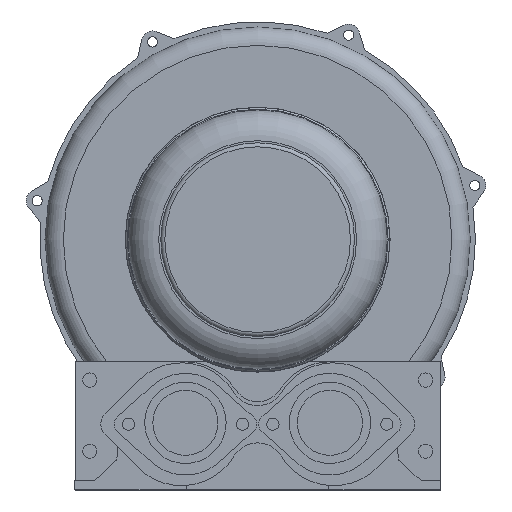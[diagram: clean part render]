
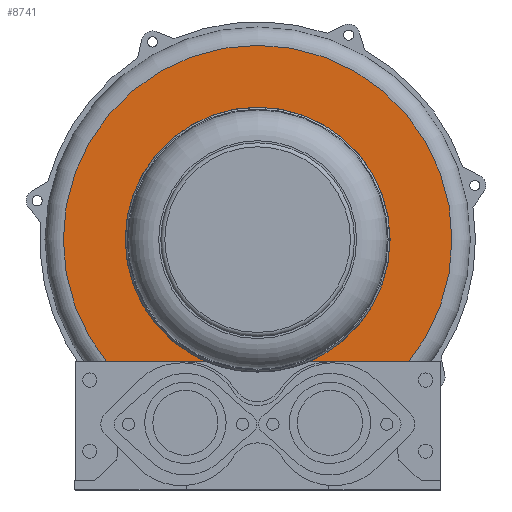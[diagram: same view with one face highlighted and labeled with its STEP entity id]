
A CAD part, front view. The second image highlights one B-rep face of the part: STEP entity #8741.
In plain terms, the highlighted conical face has half-angle 89.994 degrees and reference radius 95.484 mm.
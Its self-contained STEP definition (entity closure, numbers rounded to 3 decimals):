
#27=CONICAL_SURFACE('',#9412,95.484,1.571);
#433=CIRCLE('',#9351,65.084);
#478=CIRCLE('',#9411,95.484);
#1536=ORIENTED_EDGE('',*,*,#3784,.F.);
#1537=ORIENTED_EDGE('',*,*,#3865,.T.);
#3784=EDGE_CURVE('',#5015,#5015,#433,.T.);
#3865=EDGE_CURVE('',#5084,#5084,#478,.T.);
#5015=VERTEX_POINT('',#13436);
#5084=VERTEX_POINT('',#13601);
#7384=EDGE_LOOP('',(#1536));
#7385=EDGE_LOOP('',(#1537));
#7948=FACE_BOUND('',#7384,.T.);
#7949=FACE_BOUND('',#7385,.T.);
#8741=ADVANCED_FACE('',(#7948,#7949),#27,.T.);
#9351=AXIS2_PLACEMENT_3D('',#13435,#10771,#10772);
#9411=AXIS2_PLACEMENT_3D('',#13600,#10927,#10928);
#9412=AXIS2_PLACEMENT_3D('',#13602,#10929,#10930);
#10771=DIRECTION('',(0.,-1.,0.));
#10772=DIRECTION('',(1.,0.,0.));
#10927=DIRECTION('',(0.,-1.,0.));
#10928=DIRECTION('',(1.,0.,0.));
#10929=DIRECTION('',(0.,1.,0.));
#10930=DIRECTION('',(-1.,0.,0.));
#13435=CARTESIAN_POINT('',(0.,-61.186,0.));
#13436=CARTESIAN_POINT('',(65.084,-61.186,0.));
#13600=CARTESIAN_POINT('',(0.,-61.182,0.));
#13601=CARTESIAN_POINT('',(95.484,-61.182,0.));
#13602=CARTESIAN_POINT('',(0.,-61.182,0.));
